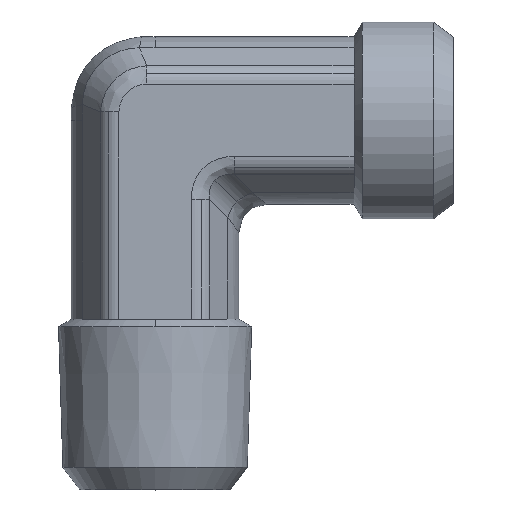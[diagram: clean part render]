
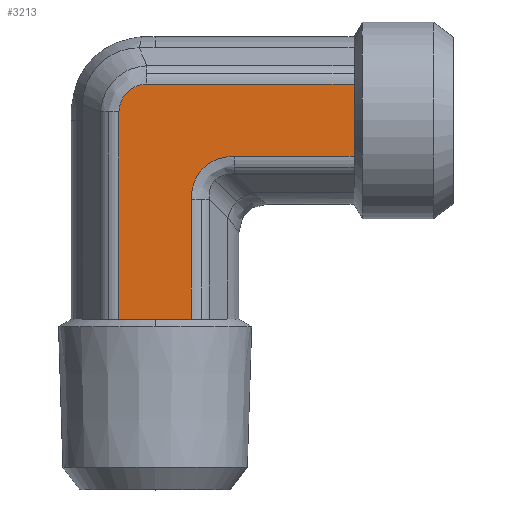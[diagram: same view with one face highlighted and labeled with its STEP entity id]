
A CAD part, top view. The second image highlights one B-rep face of the part: STEP entity #3213.
In plain terms, the highlighted planar face has unit normal (0, 0, 1) as drawn and (0, -1, 0) by its records, which use the part's own axes.
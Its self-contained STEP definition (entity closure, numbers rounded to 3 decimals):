
#361=CARTESIAN_POINT('',(1.071,-5.9,2.54));
#362=VERTEX_POINT('',#361);
#370=CARTESIAN_POINT('',(9.5,-5.9,2.54));
#371=VERTEX_POINT('',#370);
#372=CARTESIAN_POINT('',(1.071,-5.9,2.54));
#373=DIRECTION('',(1.0,0.0,0.0));
#374=VECTOR('',#373,8.429);
#375=LINE('',#372,#374);
#376=EDGE_CURVE('',#362,#371,#375,.T.);
#485=CARTESIAN_POINT('',(-7.04,-5.9,-0.585));
#486=VERTEX_POINT('',#485);
#494=CARTESIAN_POINT('',(-7.04,-5.9,14.0));
#495=VERTEX_POINT('',#494);
#496=CARTESIAN_POINT('',(-7.04,-5.9,-0.585));
#497=DIRECTION('',(0.0,0.0,1.0));
#498=VECTOR('',#497,14.585);
#499=LINE('',#496,#498);
#500=EDGE_CURVE('',#486,#495,#499,.T.);
#753=CARTESIAN_POINT('',(9.5,-5.9,0.));
#754=VERTEX_POINT('',#753);
#2132=CARTESIAN_POINT('',(-4.5,-5.9,14.0));
#2133=VERTEX_POINT('',#2132);
#2231=CARTESIAN_POINT('',(-4.5,-5.9,14.0));
#2232=DIRECTION('',(-1.0,0.0,0.0));
#2233=VECTOR('',#2232,2.54);
#2234=LINE('',#2231,#2233);
#2235=EDGE_CURVE('',#2133,#495,#2234,.T.);
#2308=CARTESIAN_POINT('',(-1.96,-5.9,14.0));
#2309=VERTEX_POINT('',#2308);
#2310=CARTESIAN_POINT('',(-1.96,-5.9,14.0));
#2311=DIRECTION('',(-1.0,0.0,0.0));
#2312=VECTOR('',#2311,2.54);
#2313=LINE('',#2310,#2312);
#2314=EDGE_CURVE('',#2309,#2133,#2313,.T.);
#2406=CARTESIAN_POINT('',(9.5,-5.9,-2.54));
#2407=VERTEX_POINT('',#2406);
#2408=CARTESIAN_POINT('',(9.5,-5.9,-2.54));
#2409=DIRECTION('',(0.0,0.0,1.0));
#2410=VECTOR('',#2409,2.54);
#2411=LINE('',#2408,#2410);
#2412=EDGE_CURVE('',#2407,#754,#2411,.T.);
#2453=CARTESIAN_POINT('',(9.5,-5.9,0.));
#2454=DIRECTION('',(0.0,0.0,1.0));
#2455=VECTOR('',#2454,2.54);
#2456=LINE('',#2453,#2455);
#2457=EDGE_CURVE('',#754,#371,#2456,.T.);
#2897=CARTESIAN_POINT('',(-5.085,-5.9,-2.54));
#2898=VERTEX_POINT('',#2897);
#2906=CARTESIAN_POINT('',(-7.04,-5.9,-0.585));
#2907=CARTESIAN_POINT('',(-7.04,-5.9,-0.712));
#2908=CARTESIAN_POINT('',(-7.027,-5.9,-0.841));
#2909=CARTESIAN_POINT('',(-6.961,-5.9,-1.168));
#2910=CARTESIAN_POINT('',(-6.889,-5.9,-1.36));
#2911=CARTESIAN_POINT('',(-6.626,-5.9,-1.825));
#2912=CARTESIAN_POINT('',(-6.394,-5.9,-2.068));
#2913=CARTESIAN_POINT('',(-5.806,-5.9,-2.436));
#2914=CARTESIAN_POINT('',(-5.446,-5.9,-2.54));
#2915=CARTESIAN_POINT('',(-5.085,-5.9,-2.54));
#2916=B_SPLINE_CURVE_WITH_KNOTS('',3,(#2906,#2907,#2908,#2909,#2910,#2911,#2912,#2913,#2914,#2915),.UNSPECIFIED.,.F.,.U.,(4,2,2,2,4),(-3.052,-2.67,-2.06,-1.083,0.0),.UNSPECIFIED.);
#2917=EDGE_CURVE('',#2898,#486,#2916,.F.);
#2944=CARTESIAN_POINT('',(9.5,-5.9,-2.54));
#2945=DIRECTION('',(-1.0,0.0,0.0));
#2946=VECTOR('',#2945,14.585);
#2947=LINE('',#2944,#2946);
#2948=EDGE_CURVE('',#2407,#2898,#2947,.T.);
#3080=CARTESIAN_POINT('',(-1.96,-5.9,5.571));
#3081=VERTEX_POINT('',#3080);
#3082=CARTESIAN_POINT('',(-1.96,-5.9,14.0));
#3083=DIRECTION('',(0.0,0.0,-1.0));
#3084=VECTOR('',#3083,8.429);
#3085=LINE('',#3082,#3084);
#3086=EDGE_CURVE('',#2309,#3081,#3085,.T.);
#3169=CARTESIAN_POINT('',(2.082,-5.9,6.582));
#3170=DIRECTION('',(0.,-1.0,0.));
#3171=DIRECTION('',(-0.707,0.,-0.707));
#3172=AXIS2_PLACEMENT_3D('',#3169,#3170,#3171);
#3173=ELLIPSE('',#3172,4.518,3.5);
#3174=EDGE_CURVE('',#3081,#362,#3173,.T.);
#3196=CARTESIAN_POINT('',(-4.5,-5.9,-3.175));
#3197=DIRECTION('',(0.0,-1.0,0.0));
#3198=DIRECTION('',(0.0,0.0,-1.0));
#3199=AXIS2_PLACEMENT_3D('',#3196,#3197,#3198);
#3200=PLANE('',#3199);
#3201=ORIENTED_EDGE('',*,*,#2948,.F.);
#3202=ORIENTED_EDGE('',*,*,#2412,.T.);
#3203=ORIENTED_EDGE('',*,*,#2457,.T.);
#3204=ORIENTED_EDGE('',*,*,#376,.F.);
#3205=ORIENTED_EDGE('',*,*,#3174,.F.);
#3206=ORIENTED_EDGE('',*,*,#3086,.F.);
#3207=ORIENTED_EDGE('',*,*,#2314,.T.);
#3208=ORIENTED_EDGE('',*,*,#2235,.T.);
#3209=ORIENTED_EDGE('',*,*,#500,.F.);
#3210=ORIENTED_EDGE('',*,*,#2917,.F.);
#3211=EDGE_LOOP('',(#3201,#3202,#3203,#3204,#3205,#3206,#3207,#3208,#3209,#3210));
#3212=FACE_OUTER_BOUND('',#3211,.T.);
#3213=ADVANCED_FACE('',(#3212),#3200,.T.);
